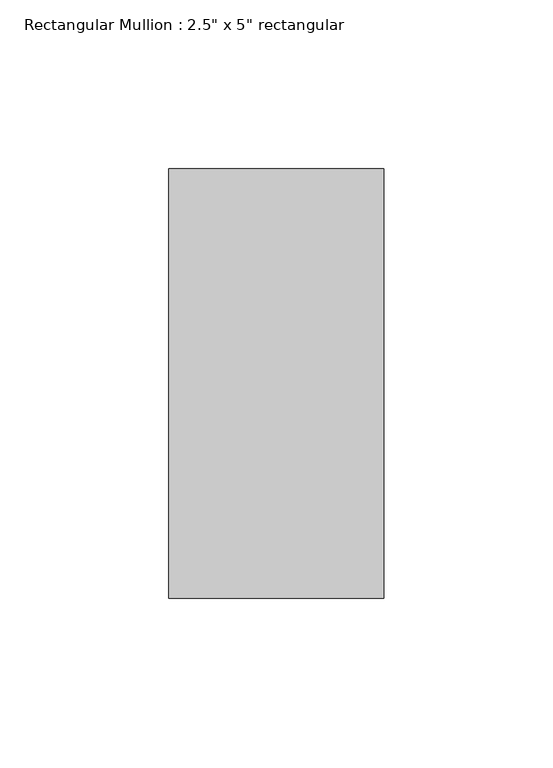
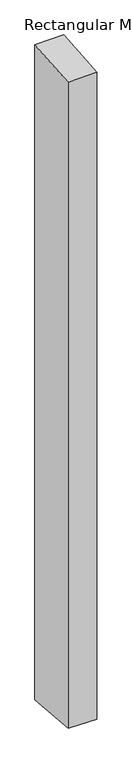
"""IFC4 building model written with IfcOpenShell, lengths in millimetres: member geometry."""

from ifc_helpers import new_model, si_unit, origin, place, context, project, spatial, faceted_brep, source, transform, mapped, element, save


def member_ac0e8256(model_context):
    return source(origin(), model_context, "Body", "Brep", [
        faceted_brep([(-63.5, 63.5, 4.4479742), (0.0, 63.5, 5.2493231), (0.0, 63.5, -1529.2493231), (-63.5, 63.5, -1528.4479742), (-63.5, -63.5, -6.0506719), (-63.5, -63.5, -1517.9493281), (0.0, -63.5, -5.2493231), (0.0, -63.5, -1518.7506769)], [[[0, 1, 2, 3]], [[4, 0, 3, 5]], [[6, 4, 5, 7]], [[1, 6, 7, 2]], [[1, 0, 4, 6]], [[2, 7, 5, 3]]]),
    ])


if __name__ == "__main__":
    model = new_model("IFC4")
    model_context = context("Model", 3, world=origin())
    ifc_project = project(units=[si_unit("LENGTHUNIT", "METRE", prefix="MILLI")], contexts=[model_context])
    site = spatial("IfcSite", under=ifc_project)
    building = spatial("IfcBuilding", under=site)
    placement = place(None, origin())
    member_shape = member_ac0e8256(model_context)
    element("IfcMember", 1, ObjectType="Rectangular Mullion : 2.5\" x 5\" rectangular", at=placement, inside=building, context=model_context, shape_type="MappedRepresentation", body=[
        mapped(member_shape, transform((0.0, 0.0, 0.0), x_axis=(1.0, 0.0, 0.0), y_axis=(0.0, 1.0, 0.0), z_axis=(0.0, 0.0, 1.0))),
    ])
    save(model, "model.ifc")
